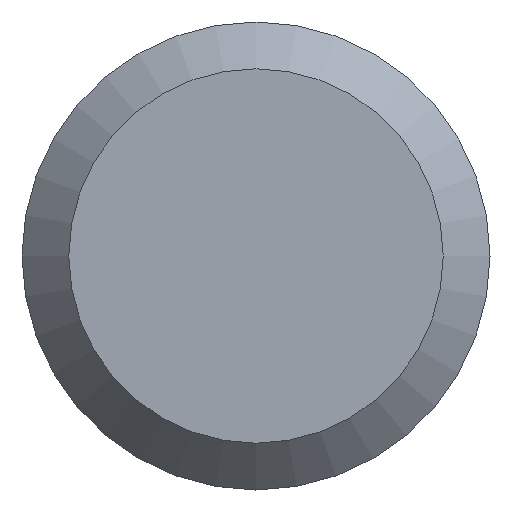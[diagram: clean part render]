
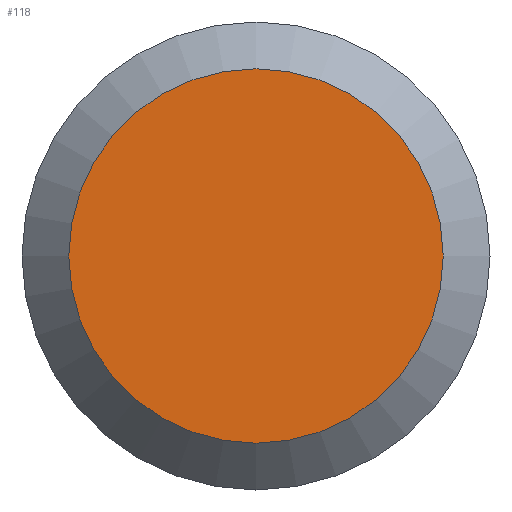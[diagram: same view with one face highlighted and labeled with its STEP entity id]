
A CAD part, left-side view. The second image highlights one B-rep face of the part: STEP entity #118.
In plain terms, the highlighted planar face has unit normal (-1, 0, 0).
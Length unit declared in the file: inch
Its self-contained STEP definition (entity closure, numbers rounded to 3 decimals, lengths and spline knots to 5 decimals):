
#12 = FACE_OUTER_BOUND ( 'NONE', #13, .T. ) ;
#13 = EDGE_LOOP ( 'NONE', ( #126 ) ) ;
#14 = DIRECTION ( 'NONE',  ( 1., 0., 0. ) ) ;
#32 = DIRECTION ( 'NONE',  ( 0., 0., -1. ) ) ;
#106 = AXIS2_PLACEMENT_3D ( 'NONE', #208, #175, #166 ) ;
#113 = CIRCLE ( 'NONE', #106, 0.0692 ) ;
#118 = ADVANCED_FACE ( 'NONE', ( #12 ), #124, .F. ) ;
#124 = PLANE ( 'NONE',  #144 ) ;
#126 = ORIENTED_EDGE ( 'NONE', *, *, #210, .T. ) ;
#139 = CARTESIAN_POINT ( 'NONE',  ( 0., 0.0865, 0. ) ) ;
#144 = AXIS2_PLACEMENT_3D ( 'NONE', #139, #14, #32 ) ;
#166 = DIRECTION ( 'NONE',  ( 0., 0., -1. ) ) ;
#168 = VERTEX_POINT ( 'NONE', #189 ) ;
#175 = DIRECTION ( 'NONE',  ( -1., 0., 0. ) ) ;
#189 = CARTESIAN_POINT ( 'NONE',  ( 0., 0., -0.0692 ) ) ;
#208 = CARTESIAN_POINT ( 'NONE',  ( 0., 0., 0. ) ) ;
#210 = EDGE_CURVE ( 'NONE', #168, #168, #113, .T. ) ;
